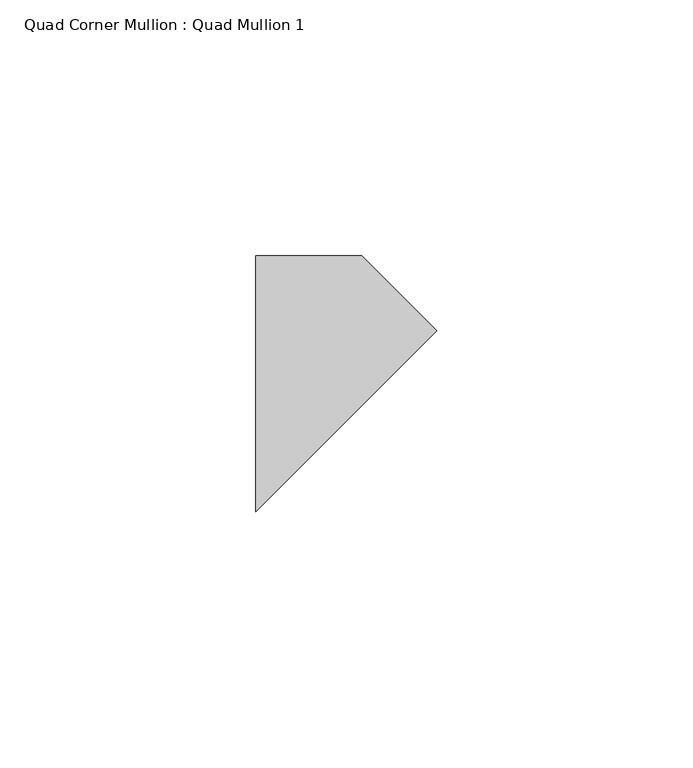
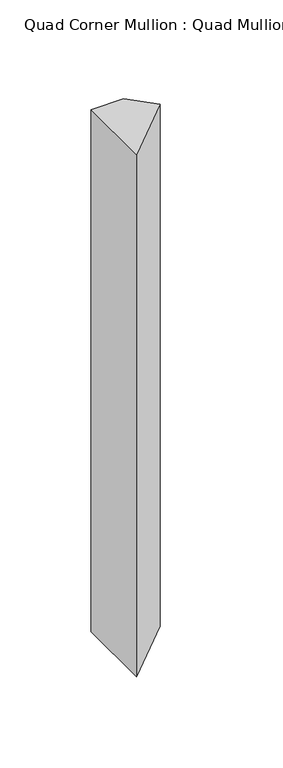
"""IFC4 building model written with IfcOpenShell, lengths in millimetres: member geometry, Quad Corner Mullion : Quad Mullion 1."""

from ifc_helpers import new_model, si_unit, frame, origin, place, context, project, spatial, polyline, outline, extrude, source, transform, mapped, element, save


def quad_corner_mullion_quad_mullion_1_7f1cc161(model_context):
    return source(origin(), model_context, "Body", "SweptSolid", [
        extrude(outline(polyline([(25.0, 10.3553391), (-10.3553391, -25.0), (-10.3553391, 25.0), (10.3553391, 25.0), (25.0, 10.3553391)])), frame((0.0, 0.0, -350.0), z_axis=(0.0, 0.0, 1.0), x_axis=(1.0, 0.0, 0.0)), (0.0, 0.0, 1.0), 350.0),
    ])


if __name__ == "__main__":
    model = new_model("IFC4")
    model_context = context("Model", 3, world=origin())
    ifc_project = project(units=[si_unit("LENGTHUNIT", "METRE", prefix="MILLI")], contexts=[model_context])
    site = spatial("IfcSite", under=ifc_project)
    building = spatial("IfcBuilding", under=site)
    placement = place(None, origin())
    quad_corner_mullion_quad_mullion_1_shape = quad_corner_mullion_quad_mullion_1_7f1cc161(model_context)
    element("IfcMember", 1, ObjectType="Quad Corner Mullion : Quad Mullion 1", at=placement, inside=building, context=model_context, shape_type="MappedRepresentation", body=[
        mapped(quad_corner_mullion_quad_mullion_1_shape, transform((0.0, 0.0, 0.0), x_axis=(1.0, 0.0, 0.0), y_axis=(0.0, 1.0, 0.0), z_axis=(0.0, 0.0, 1.0))),
    ])
    save(model, "model.ifc")
